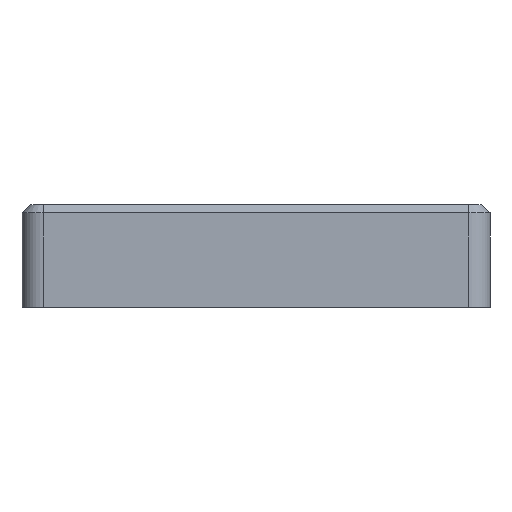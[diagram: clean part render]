
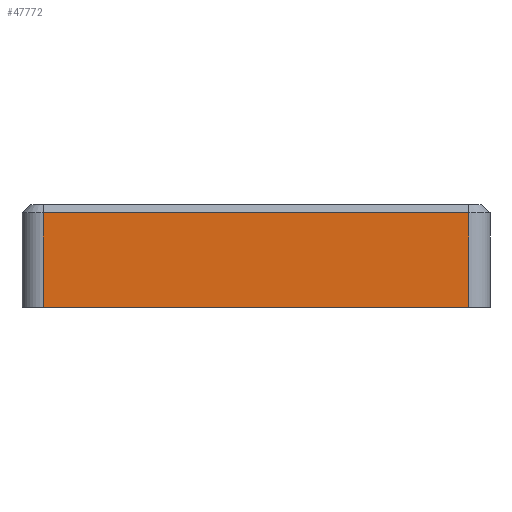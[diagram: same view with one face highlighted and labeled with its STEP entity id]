
A CAD part, left-side view. The second image highlights one B-rep face of the part: STEP entity #47772.
In plain terms, the highlighted planar face has unit normal (-1, 0, 0).
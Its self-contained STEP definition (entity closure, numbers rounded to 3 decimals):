
#5220=PLANE('',#50423);
#6952=FACE_OUTER_BOUND('',#9492,.T.);
#9492=EDGE_LOOP('',(#34081,#34082,#34083,#34084));
#12267=LINE('',#61148,#17370);
#12276=LINE('',#61178,#17379);
#12278=LINE('',#61184,#17381);
#12279=LINE('',#61185,#17382);
#17370=VECTOR('',#52306,10.);
#17379=VECTOR('',#52339,10.);
#17381=VECTOR('',#52345,10.);
#17382=VECTOR('',#52346,10.);
#22608=VERTEX_POINT('',#61138);
#22610=VERTEX_POINT('',#61144);
#22620=VERTEX_POINT('',#61177);
#22622=VERTEX_POINT('',#61183);
#27187=EDGE_CURVE('',#22608,#22610,#12267,.T.);
#27202=EDGE_CURVE('',#22620,#22610,#12276,.T.);
#27205=EDGE_CURVE('',#22622,#22608,#12278,.T.);
#27206=EDGE_CURVE('',#22622,#22620,#12279,.T.);
#34081=ORIENTED_EDGE('',*,*,#27187,.F.);
#34082=ORIENTED_EDGE('',*,*,#27205,.F.);
#34083=ORIENTED_EDGE('',*,*,#27206,.T.);
#34084=ORIENTED_EDGE('',*,*,#27202,.T.);
#47772=ADVANCED_FACE('',(#6952),#5220,.T.);
#50423=AXIS2_PLACEMENT_3D('',#61182,#52343,#52344);
#52306=DIRECTION('',(0.,-1.,0.));
#52339=DIRECTION('',(0.,0.,1.));
#52343=DIRECTION('center_axis',(-1.,0.,0.));
#52344=DIRECTION('ref_axis',(0.,-1.,0.));
#52345=DIRECTION('',(0.,0.,1.));
#52346=DIRECTION('',(0.,-1.,0.));
#61138=CARTESIAN_POINT('',(-55.,25.9,11.5));
#61144=CARTESIAN_POINT('',(-55.,-25.9,11.5));
#61148=CARTESIAN_POINT('',(-55.,12.95,11.5));
#61177=CARTESIAN_POINT('',(-55.,-25.9,0.));
#61178=CARTESIAN_POINT('',(-55.,-25.9,0.));
#61182=CARTESIAN_POINT('Origin',(-55.,25.9,0.));
#61183=CARTESIAN_POINT('',(-55.,25.9,0.));
#61184=CARTESIAN_POINT('',(-55.,25.9,0.));
#61185=CARTESIAN_POINT('',(-55.,25.9,0.));
